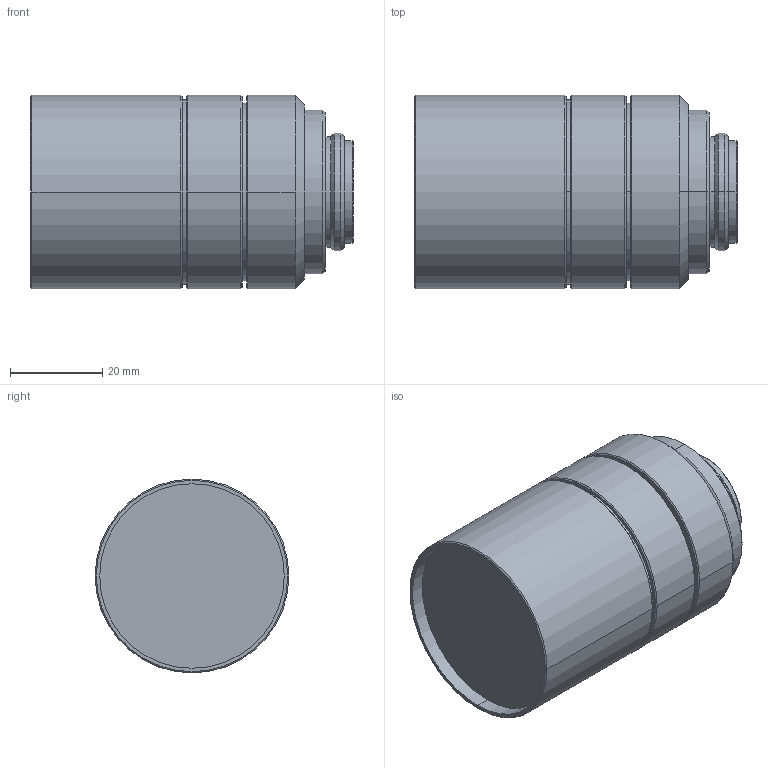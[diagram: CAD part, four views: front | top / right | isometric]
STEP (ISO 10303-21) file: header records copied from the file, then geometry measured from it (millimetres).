
FILE_DESCRIPTION(/* description */ ('AP214 STEP file'),/* implementation_level */ '2;1');
FILE_NAME(/* name */ 'FL-BC1618-9M',/* time_stamp */ '2016-08-12T08:54:34+02:00',/* author */ (''),/* organization */ (''),/* preprocessor_version */ '',/* originating_system */ 'UNIGRAPHICS',/* authorisation */ '');
FILE_SCHEMA (('AUTOMOTIVE_DESIGN'));
Length unit declared in the file: millimetre
Products named in the file (1): FL-BC1618-9M
Bounding box: 69.9 x 42 x 42 mm (x, y, z)
Volume: 85020.7 mm3; surface area: 12358.3 mm2
Topology: 1 solids, 1 shells, 53 faces, 116 edges, 74 vertices
Faces by surface type: cone 22, cylinder 20, plane 11
Entity records: 1391 total; most frequent: CARTESIAN_POINT 243, ORIENTED_EDGE 232, AXIS2_PLACEMENT_3D 128, EDGE_CURVE 116, STYLED_ITEM 106, CIRCLE 74, VERTEX_POINT 74, DIRECTION 64
